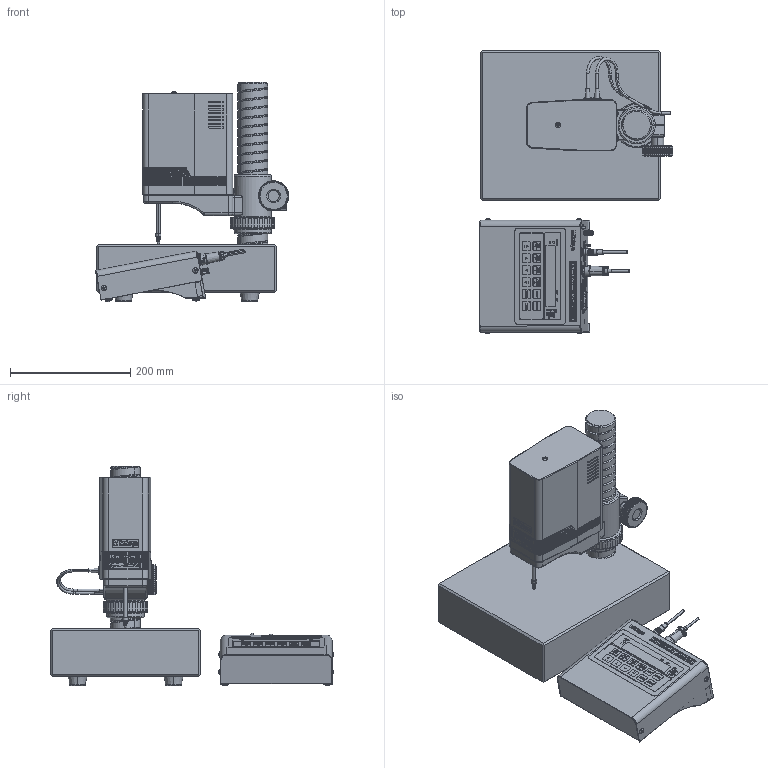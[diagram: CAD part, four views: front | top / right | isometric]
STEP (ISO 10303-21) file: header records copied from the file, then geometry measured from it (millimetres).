
FILE_DESCRIPTION(('Creo Elements/Direct Modeling STEP Export'),'2;1');
FILE_NAME('VL-50S-B_01.stp','2017-08-18T17:02:12',(''),(''),'Creo Elements/Direct Modeling STEP processor for AP214 (Solid Model)','Creo Elements/Direct Modeling 18.1C 24-Feb-2013 (C) Parametric Technology GmbH','');
FILE_SCHEMA(('AUTOMOTIVE_DESIGN { 1 0 10303 214 1 1 1 1 }'));
Products named in the file (4): ライトマチック用スタンド; 表示コントロールユニット組立; VL-50S-B_ヘッド本体部; VL-50S-B
Assembly tree (3 placements, depth 2):
  VL-50S-B
    VL-50S-B_ヘッド本体部
    表示コントロールユニット組立
    ライトマチック用スタンド
Bounding box: 321.99 x 471.65 x 365 mm (x, y, z)
Volume: 10601910.9 mm3; surface area: 615055.2 mm2
Topology: 3 solids, 9 shells, 3835 faces, 13000 edges, 9613 vertices
Faces by surface type: plane 1950, cylinder 999, cone 657, torus 155, sphere 58, bspline 16
Entity records: 202076 total; most frequent: CARTESIAN_POINT 79328, ORIENTED_EDGE 25934, DIRECTION 16329, EDGE_CURVE 12954, VERTEX_POINT 9613, VECTOR 8077, LINE 8077, EDGE_LOOP 4360
